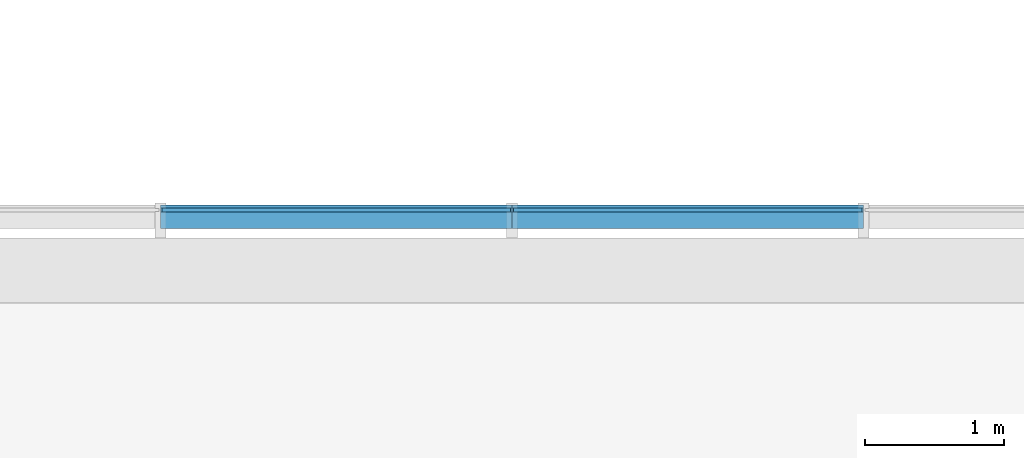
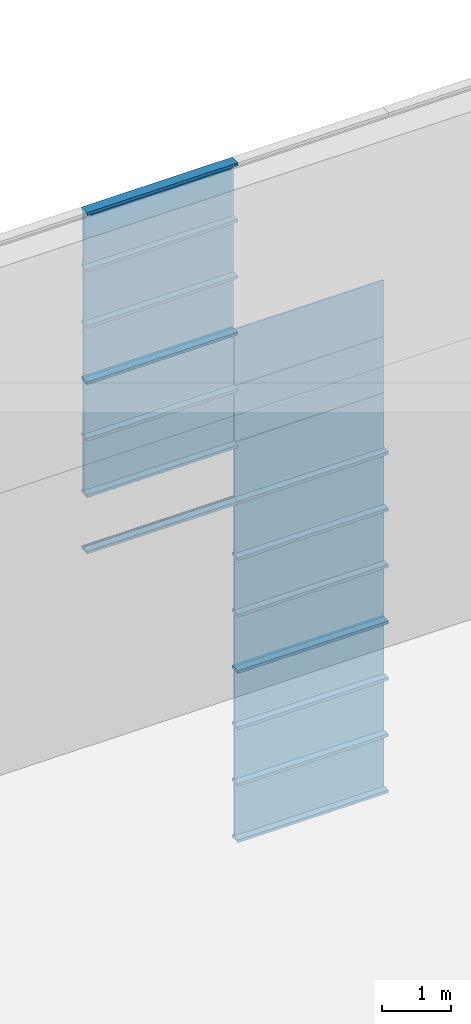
# One storey, part 44 of 105: 30 building element parts, 4 elements without a shape of their own.
"""IFC4 building model written with IfcOpenShell, lengths in millimetres."""

from ifc_helpers import new_model, entity, si_unit, converted_unit, derived_unit, direction, frame, origin_with_axes, place, context, subcontext, project, spatial, triangles, material, element, aggregate, save


model = new_model("IFC4")

# Units and contexts
model_context = context("Model", 3, precision=1e-05, world=origin_with_axes(), true_north=direction((0.0, 1.0)))
body_context = subcontext(model_context, "Body", "Model", "MODEL_VIEW")
ifc_project = project(units=[si_unit("LENGTHUNIT", "METRE", prefix="MILLI"), si_unit("AREAUNIT", "SQUARE_METRE"), si_unit("VOLUMEUNIT", "CUBIC_METRE"), converted_unit("PLANEANGLEUNIT", "DEGREE", entity("IfcLengthMeasure", 0.017453), si_unit("PLANEANGLEUNIT", "RADIAN"), dimensions=[0, 0, 0, 0, 0, 0, 0]), si_unit("SOLIDANGLEUNIT", "STERADIAN"), si_unit("MASSUNIT", "GRAM"), si_unit("TIMEUNIT", "SECOND"), si_unit("THERMODYNAMICTEMPERATUREUNIT", "DEGREE_CELSIUS"), si_unit("LUMINOUSINTENSITYUNIT", "LUMEN"), si_unit("POWERUNIT", "WATT"), derived_unit("THERMALTRANSMITTANCEUNIT", [(si_unit("POWERUNIT", "WATT"), 1), (si_unit("THERMODYNAMICTEMPERATUREUNIT", "KELVIN"), -1), (si_unit("AREAUNIT", "SQUARE_METRE"), -1)])], contexts=[model_context])

# Site, building, storey
site_placement = place(None, origin_with_axes())
site = spatial("IfcSite", under=ifc_project, at=site_placement, Name="Default Site", CompositionType="ELEMENT")
building_placement = place(site_placement, origin_with_axes())
building = spatial("IfcBuilding", under=site, at=building_placement, Name="Default Building", CompositionType="ELEMENT")
storey_placement = place(building_placement, origin_with_axes())
storey = spatial("IfcBuildingStorey", under=building, at=storey_placement, Name="OG - Story", CompositionType="ELEMENT", Elevation=0.0)

# Curtain wall, building element parts
curtain_wall_1_placement = place(storey_placement, origin_with_axes())
curtain_wall_1 = element("IfcCurtainWall", 1, at=curtain_wall_1_placement, inside=storey, Name="Fassade-004", PredefinedType="NOTDEFINED")
ifc_material_1 = material(Name="Normalglas")
building_element_part_1_placement = place(curtain_wall_1_placement, frame((33014.549222, -4389.262838, 0.0), z_axis=(0.0, 0.0, 1.0), x_axis=(1.0, 0.0, 0.0)))
building_element_part_1 = element("IfcBuildingElementPart", 2, at=building_element_part_1_placement, material=ifc_material_1, Name="Normalglas", PredefinedType="NOTDEFINED", context=body_context, shape_type="Tessellation", body=[
    triangles([(13884.737, -14.999, 995.0), (13884.737, 15.0, 995.0), (11378.421, 15.0, 995.0), (11378.421, -14.999, 995.0), (13884.737, -14.999, 5.0), (13884.737, 15.0, 5.0), (11378.421, 15.0, 5.0), (11378.421, -14.999, 5.0)], [[1, 2, 3], [1, 3, 4], [5, 6, 2], [5, 2, 1], [2, 6, 7], [2, 7, 3], [4, 3, 7], [4, 7, 8], [1, 4, 8], [1, 8, 5], [8, 7, 6], [8, 6, 5]], closed=False),
])
building_element_part_2_placement = place(curtain_wall_1_placement, frame((33014.549222, -4389.262838, 0.0), z_axis=(0.0, 0.0, 1.0), x_axis=(1.0, 0.0, 0.0)))
building_element_part_2 = element("IfcBuildingElementPart", 3, at=building_element_part_2_placement, material=ifc_material_1, Name="Normalglas", PredefinedType="NOTDEFINED", context=body_context, shape_type="Tessellation", body=[
    triangles([(13884.737, -14.999, 1995.0), (13884.737, 15.0, 1995.0), (11378.421, 15.0, 1995.0), (11378.421, -14.999, 1995.0), (13884.737, -14.999, 1005.0), (13884.737, 15.0, 1005.0), (11378.421, 15.0, 1005.0), (11378.421, -14.999, 1005.0)], [[1, 2, 3], [1, 3, 4], [5, 6, 2], [5, 2, 1], [2, 6, 7], [2, 7, 3], [4, 3, 7], [4, 7, 8], [1, 4, 8], [1, 8, 5], [8, 7, 6], [8, 6, 5]], closed=False),
])
building_element_part_3_placement = place(curtain_wall_1_placement, frame((33014.549222, -4389.262838, 0.0), z_axis=(0.0, 0.0, 1.0), x_axis=(1.0, 0.0, 0.0)))
building_element_part_3 = element("IfcBuildingElementPart", 4, at=building_element_part_3_placement, material=ifc_material_1, Name="Normalglas", PredefinedType="NOTDEFINED", context=body_context, shape_type="Tessellation", body=[
    triangles([(13884.737, -14.999, 2995.0), (13884.737, 15.0, 2995.0), (11378.421, 15.0, 2995.0), (11378.421, -14.999, 2995.0), (13884.737, -14.999, 2005.0), (13884.737, 15.0, 2005.0), (11378.421, 15.0, 2005.0), (11378.421, -14.999, 2005.0)], [[1, 2, 3], [1, 3, 4], [5, 6, 2], [5, 2, 1], [2, 6, 7], [2, 7, 3], [4, 3, 7], [4, 7, 8], [1, 4, 8], [1, 8, 5], [8, 7, 6], [8, 6, 5]], closed=False),
])
ifc_material_2 = material(Name="Blech")
building_element_part_4_placement = place(curtain_wall_1_placement, frame((33014.549222, -4389.262838, 0.0), z_axis=(0.0, 0.0, 1.0), x_axis=(1.0, 0.0, 0.0)))
building_element_part_4 = element("IfcBuildingElementPart", 5, at=building_element_part_4_placement, material=ifc_material_2, Name="Blech", PredefinedType="NOTDEFINED", context=body_context, shape_type="Tessellation", body=[
    triangles([(13894.737, 35.0, -24.999), (13894.737, 35.0, 25.0), (13894.737, 15.0, 25.0), (13894.737, 15.0, 5.0), (13894.737, -14.999, 5.0), (13894.737, -132.999, 25.0), (13894.737, -132.999, -24.999), (13894.737, -14.999, 25.0), (11368.421, -14.999, 5.0), (11368.421, -14.999, 25.0), (11368.421, -132.999, 25.0), (11368.421, -132.999, -24.999), (11368.421, 35.0, -24.999), (11368.421, 35.0, 25.0), (11368.421, 15.0, 25.0), (11368.421, 15.0, 5.0)], [[1, 2, 3], [1, 3, 4], [1, 4, 5], [1, 5, 6], [1, 6, 7], [8, 6, 5], [5, 9, 10], [5, 10, 8], [10, 11, 6], [10, 6, 8], [11, 12, 7], [11, 7, 6], [12, 13, 1], [12, 1, 7], [13, 14, 2], [13, 2, 1], [3, 2, 14], [3, 14, 15], [15, 16, 4], [15, 4, 3], [4, 16, 9], [4, 9, 5], [15, 16, 13], [13, 16, 9], [13, 9, 11], [11, 9, 10], [13, 11, 12], [15, 13, 14]], closed=False),
])
building_element_part_5_placement = place(curtain_wall_1_placement, frame((33014.549222, -4389.262838, 0.0), z_axis=(0.0, 0.0, 1.0), x_axis=(1.0, 0.0, 0.0)))
building_element_part_5 = element("IfcBuildingElementPart", 6, at=building_element_part_5_placement, material=ifc_material_2, Name="Blech", PredefinedType="NOTDEFINED", context=body_context, shape_type="Tessellation", body=[
    triangles([(13894.737, 35.0, 975.0), (13894.737, 15.0, 975.0), (13894.737, 35.0, 1025.0), (13894.737, 15.0, 995.0), (13894.737, 15.0, 1005.0), (13894.737, -14.999, 995.0), (13894.737, -14.999, 1005.0), (13894.737, -14.999, 1025.0), (13894.737, -14.999, 975.0), (13894.737, -132.999, 975.0), (13894.737, -132.999, 1025.0), (13894.737, 15.0, 1025.0), (11368.421, -14.999, 995.0), (11368.421, 15.0, 995.0), (11368.421, 15.0, 975.0), (11368.421, 35.0, 975.0), (11368.421, 35.0, 1025.0), (11368.421, 15.0, 1025.0), (11368.421, 15.0, 1005.0), (11368.421, -14.999, 1005.0), (11368.421, -14.999, 1025.0), (11368.421, -132.999, 1025.0), (11368.421, -132.999, 975.0), (11368.421, -14.999, 975.0)], [[1, 2, 3], [3, 2, 4], [3, 4, 5], [5, 4, 6], [5, 6, 7], [8, 9, 10], [8, 10, 11], [3, 5, 12], [6, 13, 14], [6, 14, 4], [4, 14, 15], [4, 15, 2], [15, 16, 1], [15, 1, 2], [1, 16, 17], [1, 17, 3], [18, 12, 3], [18, 3, 17], [12, 18, 19], [12, 19, 5], [7, 5, 19], [7, 19, 20], [8, 7, 20], [8, 20, 21], [8, 21, 22], [8, 22, 11], [11, 22, 23], [11, 23, 10], [9, 10, 23], [9, 23, 24], [9, 24, 13], [9, 13, 6], [17, 18, 16], [16, 18, 19], [16, 19, 14], [14, 19, 20], [14, 20, 13], [24, 21, 22], [24, 22, 23], [16, 14, 15]], closed=False),
])
building_element_part_6_placement = place(curtain_wall_1_placement, frame((33014.549222, -4389.262838, 0.0), z_axis=(0.0, 0.0, 1.0), x_axis=(1.0, 0.0, 0.0)))
building_element_part_6 = element("IfcBuildingElementPart", 7, at=building_element_part_6_placement, material=ifc_material_2, Name="Blech", PredefinedType="NOTDEFINED", context=body_context, shape_type="Tessellation", body=[
    triangles([(13894.737, 35.0, 1975.0), (13894.737, 15.0, 1975.0), (13894.737, 35.0, 2025.0), (13894.737, 15.0, 1995.0), (13894.737, 15.0, 2005.0), (13894.737, -14.999, 1995.0), (13894.737, -14.999, 2005.0), (13894.737, -14.999, 2025.0), (13894.737, -14.999, 1975.0), (13894.737, -132.999, 1975.0), (13894.737, -132.999, 2025.0), (13894.737, 15.0, 2025.0), (11368.421, -14.999, 1995.0), (11368.421, 15.0, 1995.0), (11368.421, 15.0, 1975.0), (11368.421, 35.0, 1975.0), (11368.421, 35.0, 2025.0), (11368.421, 15.0, 2025.0), (11368.421, 15.0, 2005.0), (11368.421, -14.999, 2005.0), (11368.421, -14.999, 2025.0), (11368.421, -132.999, 2025.0), (11368.421, -132.999, 1975.0), (11368.421, -14.999, 1975.0)], [[1, 2, 3], [3, 2, 4], [3, 4, 5], [5, 4, 6], [5, 6, 7], [8, 9, 10], [8, 10, 11], [3, 5, 12], [6, 13, 14], [6, 14, 4], [4, 14, 15], [4, 15, 2], [15, 16, 1], [15, 1, 2], [1, 16, 17], [1, 17, 3], [18, 12, 3], [18, 3, 17], [12, 18, 19], [12, 19, 5], [7, 5, 19], [7, 19, 20], [8, 7, 20], [8, 20, 21], [8, 21, 22], [8, 22, 11], [11, 22, 23], [11, 23, 10], [9, 10, 23], [9, 23, 24], [9, 24, 13], [9, 13, 6], [17, 18, 16], [16, 18, 19], [16, 19, 14], [14, 19, 20], [14, 20, 13], [24, 21, 22], [24, 22, 23], [16, 14, 15]], closed=False),
])
building_element_part_7_placement = place(curtain_wall_1_placement, frame((33014.549222, -4389.262838, 0.0), z_axis=(0.0, 0.0, 1.0), x_axis=(1.0, 0.0, 0.0)))
building_element_part_7 = element("IfcBuildingElementPart", 8, at=building_element_part_7_placement, material=ifc_material_2, Name="Blech", PredefinedType="NOTDEFINED", context=body_context, shape_type="Tessellation", body=[
    triangles([(13894.737, 15.0, 2975.0), (13894.737, 15.0, 2995.0), (13894.737, 35.0, 3025.0), (13894.737, -14.999, 2995.0), (13894.737, -132.999, 2975.0), (13894.737, -14.999, 2975.0), (13894.737, -132.999, 3025.0), (13894.737, 35.0, 2975.0), (11368.421, -14.999, 2995.0), (11368.421, 15.0, 2995.0), (11368.421, 15.0, 2975.0), (11368.421, 35.0, 2975.0), (11368.421, 35.0, 3025.0), (11368.421, -132.999, 3025.0), (11368.421, -132.999, 2975.0), (11368.421, -14.999, 2975.0)], [[1, 2, 3], [3, 2, 4], [3, 4, 5], [5, 4, 6], [3, 5, 7], [1, 3, 8], [2, 4, 9], [2, 9, 10], [11, 1, 2], [11, 2, 10], [1, 11, 12], [1, 12, 8], [13, 3, 8], [13, 8, 12], [14, 7, 3], [14, 3, 13], [15, 5, 7], [15, 7, 14], [16, 6, 5], [16, 5, 15], [4, 6, 16], [4, 16, 9], [13, 12, 11], [13, 11, 10], [13, 10, 9], [13, 9, 15], [13, 15, 14], [16, 15, 9]], closed=False),
])
aggregate(curtain_wall_1, [building_element_part_1, building_element_part_2, building_element_part_3, building_element_part_4, building_element_part_5, building_element_part_6, building_element_part_7])

curtain_wall_2_placement = place(storey_placement, origin_with_axes())
curtain_wall_2 = element("IfcCurtainWall", 9, at=curtain_wall_2_placement, inside=storey, Name="Fassade-004", PredefinedType="NOTDEFINED")
building_element_part_8_placement = place(curtain_wall_2_placement, frame((33014.549222, -4389.262838, 3000.0), z_axis=(0.0, 0.0, 1.0), x_axis=(1.0, 0.0, 0.0)))
building_element_part_8 = element("IfcBuildingElementPart", 10, at=building_element_part_8_placement, material=ifc_material_1, Name="Normalglas", PredefinedType="NOTDEFINED", context=body_context, shape_type="Tessellation", body=[
    triangles([(13884.737, -14.999, 995.0), (13884.737, 15.0, 995.0), (11378.421, 15.0, 995.0), (11378.421, -14.999, 995.0), (13884.737, -14.999, 5.0), (13884.737, 15.0, 5.0), (11378.421, 15.0, 5.0), (11378.421, -14.999, 5.0)], [[1, 2, 3], [1, 3, 4], [5, 6, 2], [5, 2, 1], [2, 6, 7], [2, 7, 3], [4, 3, 7], [4, 7, 8], [1, 4, 8], [1, 8, 5], [8, 7, 6], [8, 6, 5]], closed=False),
])
building_element_part_9_placement = place(curtain_wall_2_placement, frame((33014.549222, -4389.262838, 3000.0), z_axis=(0.0, 0.0, 1.0), x_axis=(1.0, 0.0, 0.0)))
building_element_part_9 = element("IfcBuildingElementPart", 11, at=building_element_part_9_placement, material=ifc_material_1, Name="Normalglas", PredefinedType="NOTDEFINED", context=body_context, shape_type="Tessellation", body=[
    triangles([(13884.737, -14.999, 1995.0), (13884.737, 15.0, 1995.0), (11378.421, 15.0, 1995.0), (11378.421, -14.999, 1995.0), (13884.737, -14.999, 1005.0), (13884.737, 15.0, 1005.0), (11378.421, 15.0, 1005.0), (11378.421, -14.999, 1005.0)], [[1, 2, 3], [1, 3, 4], [5, 6, 2], [5, 2, 1], [2, 6, 7], [2, 7, 3], [4, 3, 7], [4, 7, 8], [1, 4, 8], [1, 8, 5], [8, 7, 6], [8, 6, 5]], closed=False),
])
building_element_part_10_placement = place(curtain_wall_2_placement, frame((33014.549222, -4389.262838, 3000.0), z_axis=(0.0, 0.0, 1.0), x_axis=(1.0, 0.0, 0.0)))
building_element_part_10 = element("IfcBuildingElementPart", 12, at=building_element_part_10_placement, material=ifc_material_1, Name="Normalglas", PredefinedType="NOTDEFINED", context=body_context, shape_type="Tessellation", body=[
    triangles([(13884.737, -14.999, 2995.0), (13884.737, 15.0, 2995.0), (11378.421, 15.0, 2995.0), (11378.421, -14.999, 2995.0), (13884.737, -14.999, 2005.0), (13884.737, 15.0, 2005.0), (11378.421, 15.0, 2005.0), (11378.421, -14.999, 2005.0)], [[1, 2, 3], [1, 3, 4], [5, 6, 2], [5, 2, 1], [2, 6, 7], [2, 7, 3], [4, 3, 7], [4, 7, 8], [1, 4, 8], [1, 8, 5], [8, 7, 6], [8, 6, 5]], closed=False),
])
building_element_part_11_placement = place(curtain_wall_2_placement, frame((33014.549222, -4389.262838, 3000.0), z_axis=(0.0, 0.0, 1.0), x_axis=(1.0, 0.0, 0.0)))
building_element_part_11 = element("IfcBuildingElementPart", 13, at=building_element_part_11_placement, material=ifc_material_2, Name="Blech", PredefinedType="NOTDEFINED", context=body_context, shape_type="Tessellation", body=[
    triangles([(13894.737, 35.0, -24.999), (13894.737, 35.0, 25.0), (13894.737, 15.0, 25.0), (13894.737, 15.0, 5.0), (13894.737, -14.999, 5.0), (13894.737, -132.999, 25.0), (13894.737, -132.999, -24.999), (13894.737, -14.999, 25.0), (11368.421, -14.999, 5.0), (11368.421, -14.999, 25.0), (11368.421, -132.999, 25.0), (11368.421, -132.999, -24.999), (11368.421, 35.0, -24.999), (11368.421, 35.0, 25.0), (11368.421, 15.0, 25.0), (11368.421, 15.0, 5.0)], [[1, 2, 3], [1, 3, 4], [1, 4, 5], [1, 5, 6], [1, 6, 7], [8, 6, 5], [5, 9, 10], [5, 10, 8], [10, 11, 6], [10, 6, 8], [11, 12, 7], [11, 7, 6], [12, 13, 1], [12, 1, 7], [13, 14, 2], [13, 2, 1], [3, 2, 14], [3, 14, 15], [15, 16, 4], [15, 4, 3], [4, 16, 9], [4, 9, 5], [15, 16, 13], [13, 16, 9], [13, 9, 11], [11, 9, 10], [13, 11, 12], [15, 13, 14]], closed=False),
])
building_element_part_12_placement = place(curtain_wall_2_placement, frame((33014.549222, -4389.262838, 3000.0), z_axis=(0.0, 0.0, 1.0), x_axis=(1.0, 0.0, 0.0)))
building_element_part_12 = element("IfcBuildingElementPart", 14, at=building_element_part_12_placement, material=ifc_material_2, Name="Blech", PredefinedType="NOTDEFINED", context=body_context, shape_type="Tessellation", body=[
    triangles([(13894.737, 35.0, 975.0), (13894.737, 15.0, 975.0), (13894.737, 35.0, 1025.0), (13894.737, 15.0, 995.0), (13894.737, 15.0, 1005.0), (13894.737, -14.999, 995.0), (13894.737, -14.999, 1005.0), (13894.737, -14.999, 1025.0), (13894.737, -14.999, 975.0), (13894.737, -132.999, 975.0), (13894.737, -132.999, 1025.0), (13894.737, 15.0, 1025.0), (11368.421, -14.999, 995.0), (11368.421, 15.0, 995.0), (11368.421, 15.0, 975.0), (11368.421, 35.0, 975.0), (11368.421, 35.0, 1025.0), (11368.421, 15.0, 1025.0), (11368.421, 15.0, 1005.0), (11368.421, -14.999, 1005.0), (11368.421, -14.999, 1025.0), (11368.421, -132.999, 1025.0), (11368.421, -132.999, 975.0), (11368.421, -14.999, 975.0)], [[1, 2, 3], [3, 2, 4], [3, 4, 5], [5, 4, 6], [5, 6, 7], [8, 9, 10], [8, 10, 11], [3, 5, 12], [6, 13, 14], [6, 14, 4], [4, 14, 15], [4, 15, 2], [15, 16, 1], [15, 1, 2], [1, 16, 17], [1, 17, 3], [18, 12, 3], [18, 3, 17], [12, 18, 19], [12, 19, 5], [7, 5, 19], [7, 19, 20], [8, 7, 20], [8, 20, 21], [8, 21, 22], [8, 22, 11], [11, 22, 23], [11, 23, 10], [9, 10, 23], [9, 23, 24], [9, 24, 13], [9, 13, 6], [17, 18, 16], [16, 18, 19], [16, 19, 14], [14, 19, 20], [14, 20, 13], [24, 21, 22], [24, 22, 23], [16, 14, 15]], closed=False),
])
building_element_part_13_placement = place(curtain_wall_2_placement, frame((33014.549222, -4389.262838, 3000.0), z_axis=(0.0, 0.0, 1.0), x_axis=(1.0, 0.0, 0.0)))
building_element_part_13 = element("IfcBuildingElementPart", 15, at=building_element_part_13_placement, material=ifc_material_2, Name="Blech", PredefinedType="NOTDEFINED", context=body_context, shape_type="Tessellation", body=[
    triangles([(13894.737, 35.0, 1975.0), (13894.737, 15.0, 1975.0), (13894.737, 35.0, 2025.0), (13894.737, 15.0, 1995.0), (13894.737, 15.0, 2005.0), (13894.737, -14.999, 1995.0), (13894.737, -14.999, 2005.0), (13894.737, -14.999, 2025.0), (13894.737, -14.999, 1975.0), (13894.737, -132.999, 1975.0), (13894.737, -132.999, 2025.0), (13894.737, 15.0, 2025.0), (11368.421, -14.999, 1995.0), (11368.421, 15.0, 1995.0), (11368.421, 15.0, 1975.0), (11368.421, 35.0, 1975.0), (11368.421, 35.0, 2025.0), (11368.421, 15.0, 2025.0), (11368.421, 15.0, 2005.0), (11368.421, -14.999, 2005.0), (11368.421, -14.999, 2025.0), (11368.421, -132.999, 2025.0), (11368.421, -132.999, 1975.0), (11368.421, -14.999, 1975.0)], [[1, 2, 3], [3, 2, 4], [3, 4, 5], [5, 4, 6], [5, 6, 7], [8, 9, 10], [8, 10, 11], [3, 5, 12], [6, 13, 14], [6, 14, 4], [4, 14, 15], [4, 15, 2], [15, 16, 1], [15, 1, 2], [1, 16, 17], [1, 17, 3], [18, 12, 3], [18, 3, 17], [12, 18, 19], [12, 19, 5], [7, 5, 19], [7, 19, 20], [8, 7, 20], [8, 20, 21], [8, 21, 22], [8, 22, 11], [11, 22, 23], [11, 23, 10], [9, 10, 23], [9, 23, 24], [9, 24, 13], [9, 13, 6], [17, 18, 16], [16, 18, 19], [16, 19, 14], [14, 19, 20], [14, 20, 13], [24, 21, 22], [24, 22, 23], [16, 14, 15]], closed=False),
])
building_element_part_14_placement = place(curtain_wall_2_placement, frame((33014.549222, -4389.262838, 3000.0), z_axis=(0.0, 0.0, 1.0), x_axis=(1.0, 0.0, 0.0)))
building_element_part_14 = element("IfcBuildingElementPart", 16, at=building_element_part_14_placement, material=ifc_material_2, Name="Blech", PredefinedType="NOTDEFINED", context=body_context, shape_type="Tessellation", body=[
    triangles([(13894.737, 15.0, 2975.0), (13894.737, 15.0, 2995.0), (13894.737, 35.0, 3025.0), (13894.737, -14.999, 2995.0), (13894.737, -132.999, 2975.0), (13894.737, -14.999, 2975.0), (13894.737, -132.999, 3025.0), (13894.737, 35.0, 2975.0), (11368.421, -14.999, 2995.0), (11368.421, 15.0, 2995.0), (11368.421, 15.0, 2975.0), (11368.421, 35.0, 2975.0), (11368.421, 35.0, 3025.0), (11368.421, -132.999, 3025.0), (11368.421, -132.999, 2975.0), (11368.421, -14.999, 2975.0)], [[1, 2, 3], [3, 2, 4], [3, 4, 5], [5, 4, 6], [3, 5, 7], [1, 3, 8], [2, 4, 9], [2, 9, 10], [11, 1, 2], [11, 2, 10], [1, 11, 12], [1, 12, 8], [13, 3, 8], [13, 8, 12], [14, 7, 3], [14, 3, 13], [15, 5, 7], [15, 7, 14], [16, 6, 5], [16, 5, 15], [4, 6, 16], [4, 16, 9], [13, 12, 11], [13, 11, 10], [13, 10, 9], [13, 9, 15], [13, 15, 14], [16, 15, 9]], closed=False),
])
aggregate(curtain_wall_2, [building_element_part_8, building_element_part_9, building_element_part_10, building_element_part_11, building_element_part_12, building_element_part_13, building_element_part_14])

curtain_wall_3_placement = place(storey_placement, origin_with_axes())
curtain_wall_3 = element("IfcCurtainWall", 17, at=curtain_wall_3_placement, inside=storey, Name="Fassade-004", PredefinedType="NOTDEFINED")
building_element_part_15_placement = place(curtain_wall_3_placement, frame((33014.549222, -4389.262838, 6000.0), z_axis=(0.0, 0.0, 1.0), x_axis=(1.0, 0.0, 0.0)))
building_element_part_15 = element("IfcBuildingElementPart", 18, at=building_element_part_15_placement, material=ifc_material_1, Name="Normalglas", PredefinedType="NOTDEFINED", context=body_context, shape_type="Tessellation", body=[
    triangles([(13884.737, -14.999, 995.0), (13884.737, 15.0, 995.0), (11378.421, 15.0, 995.0), (11378.421, -14.999, 995.0), (13884.737, -14.999, 5.0), (13884.737, 15.0, 5.0), (11378.421, 15.0, 5.0), (11378.421, -14.999, 5.0)], [[1, 2, 3], [1, 3, 4], [5, 6, 2], [5, 2, 1], [2, 6, 7], [2, 7, 3], [4, 3, 7], [4, 7, 8], [1, 4, 8], [1, 8, 5], [8, 7, 6], [8, 6, 5]], closed=False),
])
building_element_part_16_placement = place(curtain_wall_3_placement, frame((33014.549222, -4389.262838, 6000.0), z_axis=(0.0, 0.0, 1.0), x_axis=(1.0, 0.0, 0.0)))
building_element_part_16 = element("IfcBuildingElementPart", 19, at=building_element_part_16_placement, material=ifc_material_1, Name="Normalglas", PredefinedType="NOTDEFINED", context=body_context, shape_type="Tessellation", body=[
    triangles([(11358.421, -14.999, 1995.0), (11358.421, 15.0, 1995.0), (8852.105, 15.0, 1995.0), (8852.105, -14.999, 1995.0), (11358.421, -14.999, 1005.0), (11358.421, 15.0, 1005.0), (8852.105, 15.0, 1005.0), (8852.105, -14.999, 1005.0)], [[1, 2, 3], [1, 3, 4], [5, 6, 2], [5, 2, 1], [2, 6, 7], [2, 7, 3], [4, 3, 7], [4, 7, 8], [1, 4, 8], [1, 8, 5], [8, 7, 6], [8, 6, 5]], closed=False),
])
building_element_part_17_placement = place(curtain_wall_3_placement, frame((33014.549222, -4389.262838, 6000.0), z_axis=(0.0, 0.0, 1.0), x_axis=(1.0, 0.0, 0.0)))
building_element_part_17 = element("IfcBuildingElementPart", 20, at=building_element_part_17_placement, material=ifc_material_1, Name="Normalglas", PredefinedType="NOTDEFINED", context=body_context, shape_type="Tessellation", body=[
    triangles([(13884.737, -14.999, 1995.0), (13884.737, 15.0, 1995.0), (11378.421, 15.0, 1995.0), (11378.421, -14.999, 1995.0), (13884.737, -14.999, 1005.0), (13884.737, 15.0, 1005.0), (11378.421, 15.0, 1005.0), (11378.421, -14.999, 1005.0)], [[1, 2, 3], [1, 3, 4], [5, 6, 2], [5, 2, 1], [2, 6, 7], [2, 7, 3], [4, 3, 7], [4, 7, 8], [1, 4, 8], [1, 8, 5], [8, 7, 6], [8, 6, 5]], closed=False),
])
building_element_part_18_placement = place(curtain_wall_3_placement, frame((33014.549222, -4389.262838, 6000.0), z_axis=(0.0, 0.0, 1.0), x_axis=(1.0, 0.0, 0.0)))
building_element_part_18 = element("IfcBuildingElementPart", 21, at=building_element_part_18_placement, material=ifc_material_1, Name="Normalglas", PredefinedType="NOTDEFINED", context=body_context, shape_type="Tessellation", body=[
    triangles([(11358.421, -14.999, 2995.0), (11358.421, 15.0, 2995.0), (8852.105, 15.0, 2995.0), (8852.105, -14.999, 2995.0), (11358.421, -14.999, 2005.0), (11358.421, 15.0, 2005.0), (8852.105, 15.0, 2005.0), (8852.105, -14.999, 2005.0)], [[1, 2, 3], [1, 3, 4], [5, 6, 2], [5, 2, 1], [2, 6, 7], [2, 7, 3], [4, 3, 7], [4, 7, 8], [1, 4, 8], [1, 8, 5], [8, 7, 6], [8, 6, 5]], closed=False),
])
building_element_part_19_placement = place(curtain_wall_3_placement, frame((33014.549222, -4389.262838, 6000.0), z_axis=(0.0, 0.0, 1.0), x_axis=(1.0, 0.0, 0.0)))
building_element_part_19 = element("IfcBuildingElementPart", 22, at=building_element_part_19_placement, material=ifc_material_1, Name="Normalglas", PredefinedType="NOTDEFINED", context=body_context, shape_type="Tessellation", body=[
    triangles([(13884.737, -14.999, 2995.0), (13884.737, 15.0, 2995.0), (11378.421, 15.0, 2995.0), (11378.421, -14.999, 2995.0), (13884.737, -14.999, 2005.0), (13884.737, 15.0, 2005.0), (11378.421, 15.0, 2005.0), (11378.421, -14.999, 2005.0)], [[1, 2, 3], [1, 3, 4], [5, 6, 2], [5, 2, 1], [2, 6, 7], [2, 7, 3], [4, 3, 7], [4, 7, 8], [1, 4, 8], [1, 8, 5], [8, 7, 6], [8, 6, 5]], closed=False),
])
building_element_part_20_placement = place(curtain_wall_3_placement, frame((33014.549222, -4389.262838, 6000.0), z_axis=(0.0, 0.0, 1.0), x_axis=(1.0, 0.0, 0.0)))
building_element_part_20 = element("IfcBuildingElementPart", 23, at=building_element_part_20_placement, material=ifc_material_2, Name="Blech", PredefinedType="NOTDEFINED", context=body_context, shape_type="Tessellation", body=[
    triangles([(11368.421, 35.0, -24.999), (11368.421, 35.0, 25.0), (11368.421, 15.0, 25.0), (11368.421, 15.0, 5.0), (11368.421, -14.999, 5.0), (11368.421, -132.999, 25.0), (11368.421, -132.999, -24.999), (11368.421, -14.999, 25.0), (8842.105, -14.999, 5.0), (8842.105, -14.999, 25.0), (8842.105, -132.999, 25.0), (8842.105, -132.999, -24.999), (8842.105, 35.0, -24.999), (8842.105, 35.0, 25.0), (8842.105, 15.0, 25.0), (8842.105, 15.0, 5.0)], [[1, 2, 3], [1, 3, 4], [1, 4, 5], [1, 5, 6], [1, 6, 7], [8, 6, 5], [5, 9, 10], [5, 10, 8], [10, 11, 6], [10, 6, 8], [11, 12, 7], [11, 7, 6], [12, 13, 1], [12, 1, 7], [13, 14, 2], [13, 2, 1], [3, 2, 14], [3, 14, 15], [15, 16, 4], [15, 4, 3], [4, 16, 9], [4, 9, 5], [15, 16, 13], [13, 16, 9], [13, 9, 11], [11, 9, 10], [13, 11, 12], [15, 13, 14]], closed=False),
])
building_element_part_21_placement = place(curtain_wall_3_placement, frame((33014.549222, -4389.262838, 6000.0), z_axis=(0.0, 0.0, 1.0), x_axis=(1.0, 0.0, 0.0)))
building_element_part_21 = element("IfcBuildingElementPart", 24, at=building_element_part_21_placement, material=ifc_material_2, Name="Blech", PredefinedType="NOTDEFINED", context=body_context, shape_type="Tessellation", body=[
    triangles([(11368.421, 35.0, 975.0), (11368.421, 15.0, 975.0), (11368.421, 35.0, 1025.0), (11368.421, 15.0, 995.0), (11368.421, 15.0, 1005.0), (11368.421, -14.999, 995.0), (11368.421, -14.999, 1005.0), (11368.421, -14.999, 1025.0), (11368.421, -14.999, 975.0), (11368.421, -132.999, 975.0), (11368.421, -132.999, 1025.0), (11368.421, 15.0, 1025.0), (8842.105, -14.999, 995.0), (8842.105, 15.0, 995.0), (8842.105, 15.0, 975.0), (8842.105, 35.0, 975.0), (8842.105, 35.0, 1025.0), (8842.105, 15.0, 1025.0), (8842.105, 15.0, 1005.0), (8842.105, -14.999, 1005.0), (8842.105, -14.999, 1025.0), (8842.105, -132.999, 1025.0), (8842.105, -132.999, 975.0), (8842.105, -14.999, 975.0)], [[1, 2, 3], [3, 2, 4], [3, 4, 5], [5, 4, 6], [5, 6, 7], [8, 9, 10], [8, 10, 11], [3, 5, 12], [6, 13, 14], [6, 14, 4], [4, 14, 15], [4, 15, 2], [15, 16, 1], [15, 1, 2], [1, 16, 17], [1, 17, 3], [18, 12, 3], [18, 3, 17], [12, 18, 19], [12, 19, 5], [7, 5, 19], [7, 19, 20], [8, 7, 20], [8, 20, 21], [8, 21, 22], [8, 22, 11], [11, 22, 23], [11, 23, 10], [9, 10, 23], [9, 23, 24], [9, 24, 13], [9, 13, 6], [17, 18, 16], [16, 18, 19], [16, 19, 14], [14, 19, 20], [14, 20, 13], [24, 21, 22], [24, 22, 23], [16, 14, 15]], closed=False),
])
building_element_part_22_placement = place(curtain_wall_3_placement, frame((33014.549222, -4389.262838, 6000.0), z_axis=(0.0, 0.0, 1.0), x_axis=(1.0, 0.0, 0.0)))
building_element_part_22 = element("IfcBuildingElementPart", 25, at=building_element_part_22_placement, material=ifc_material_2, Name="Blech", PredefinedType="NOTDEFINED", context=body_context, shape_type="Tessellation", body=[
    triangles([(11368.421, 35.0, 1975.0), (11368.421, 15.0, 1975.0), (11368.421, 35.0, 2025.0), (11368.421, 15.0, 1995.0), (11368.421, 15.0, 2005.0), (11368.421, -14.999, 1995.0), (11368.421, -14.999, 2005.0), (11368.421, -14.999, 2025.0), (11368.421, -14.999, 1975.0), (11368.421, -132.999, 1975.0), (11368.421, -132.999, 2025.0), (11368.421, 15.0, 2025.0), (8842.105, -14.999, 1995.0), (8842.105, 15.0, 1995.0), (8842.105, 15.0, 1975.0), (8842.105, 35.0, 1975.0), (8842.105, 35.0, 2025.0), (8842.105, 15.0, 2025.0), (8842.105, 15.0, 2005.0), (8842.105, -14.999, 2005.0), (8842.105, -14.999, 2025.0), (8842.105, -132.999, 2025.0), (8842.105, -132.999, 1975.0), (8842.105, -14.999, 1975.0)], [[1, 2, 3], [3, 2, 4], [3, 4, 5], [5, 4, 6], [5, 6, 7], [8, 9, 10], [8, 10, 11], [3, 5, 12], [6, 13, 14], [6, 14, 4], [4, 14, 15], [4, 15, 2], [15, 16, 1], [15, 1, 2], [1, 16, 17], [1, 17, 3], [18, 12, 3], [18, 3, 17], [12, 18, 19], [12, 19, 5], [7, 5, 19], [7, 19, 20], [8, 7, 20], [8, 20, 21], [8, 21, 22], [8, 22, 11], [11, 22, 23], [11, 23, 10], [9, 10, 23], [9, 23, 24], [9, 24, 13], [9, 13, 6], [17, 18, 16], [16, 18, 19], [16, 19, 14], [14, 19, 20], [14, 20, 13], [24, 21, 22], [24, 22, 23], [16, 14, 15]], closed=False),
])
building_element_part_23_placement = place(curtain_wall_3_placement, frame((33014.549222, -4389.262838, 6000.0), z_axis=(0.0, 0.0, 1.0), x_axis=(1.0, 0.0, 0.0)))
building_element_part_23 = element("IfcBuildingElementPart", 26, at=building_element_part_23_placement, material=ifc_material_2, Name="Blech", PredefinedType="NOTDEFINED", context=body_context, shape_type="Tessellation", body=[
    triangles([(11368.421, 15.0, 2975.0), (11368.421, 15.0, 2995.0), (11368.421, 35.0, 3025.0), (11368.421, -14.999, 2995.0), (11368.421, -132.999, 2975.0), (11368.421, -14.999, 2975.0), (11368.421, -132.999, 3025.0), (11368.421, 35.0, 2975.0), (8842.105, -14.999, 2995.0), (8842.105, 15.0, 2995.0), (8842.105, 15.0, 2975.0), (8842.105, 35.0, 2975.0), (8842.105, 35.0, 3025.0), (8842.105, -132.999, 3025.0), (8842.105, -132.999, 2975.0), (8842.105, -14.999, 2975.0)], [[1, 2, 3], [3, 2, 4], [3, 4, 5], [5, 4, 6], [3, 5, 7], [1, 3, 8], [2, 4, 9], [2, 9, 10], [11, 1, 2], [11, 2, 10], [1, 11, 12], [1, 12, 8], [13, 3, 8], [13, 8, 12], [14, 7, 3], [14, 3, 13], [15, 5, 7], [15, 7, 14], [16, 6, 5], [16, 5, 15], [4, 6, 16], [4, 16, 9], [13, 12, 11], [13, 11, 10], [13, 10, 9], [13, 9, 15], [13, 15, 14], [16, 15, 9]], closed=False),
])
aggregate(curtain_wall_3, [building_element_part_15, building_element_part_16, building_element_part_17, building_element_part_18, building_element_part_19, building_element_part_20, building_element_part_21, building_element_part_22, building_element_part_23])

curtain_wall_4_placement = place(storey_placement, origin_with_axes())
curtain_wall_4 = element("IfcCurtainWall", 27, at=curtain_wall_4_placement, inside=storey, Name="Fassade-004", PredefinedType="NOTDEFINED")
building_element_part_24_placement = place(curtain_wall_4_placement, frame((33014.549222, -4389.262838, 9000.0), z_axis=(0.0, 0.0, 1.0), x_axis=(1.0, 0.0, 0.0)))
building_element_part_24 = element("IfcBuildingElementPart", 28, at=building_element_part_24_placement, material=ifc_material_1, Name="Normalglas", PredefinedType="NOTDEFINED", context=body_context, shape_type="Tessellation", body=[
    triangles([(11358.421, -14.999, 995.0), (11358.421, 15.0, 995.0), (8852.105, 15.0, 995.0), (8852.105, -14.999, 995.0), (11358.421, -14.999, 5.0), (11358.421, 15.0, 5.0), (8852.105, 15.0, 5.0), (8852.105, -14.999, 5.0)], [[1, 2, 3], [1, 3, 4], [5, 6, 2], [5, 2, 1], [2, 6, 7], [2, 7, 3], [4, 3, 7], [4, 7, 8], [1, 4, 8], [1, 8, 5], [8, 7, 6], [8, 6, 5]], closed=False),
])
building_element_part_25_placement = place(curtain_wall_4_placement, frame((33014.549222, -4389.262838, 9000.0), z_axis=(0.0, 0.0, 1.0), x_axis=(1.0, 0.0, 0.0)))
building_element_part_25 = element("IfcBuildingElementPart", 29, at=building_element_part_25_placement, material=ifc_material_1, Name="Normalglas", PredefinedType="NOTDEFINED", context=body_context, shape_type="Tessellation", body=[
    triangles([(11358.421, -14.999, 1995.0), (11358.421, 15.0, 1995.0), (8852.105, 15.0, 1995.0), (8852.105, -14.999, 1995.0), (11358.421, -14.999, 1005.0), (11358.421, 15.0, 1005.0), (8852.105, 15.0, 1005.0), (8852.105, -14.999, 1005.0)], [[1, 2, 3], [1, 3, 4], [5, 6, 2], [5, 2, 1], [2, 6, 7], [2, 7, 3], [4, 3, 7], [4, 7, 8], [1, 4, 8], [1, 8, 5], [8, 7, 6], [8, 6, 5]], closed=False),
])
building_element_part_26_placement = place(curtain_wall_4_placement, frame((33014.549222, -4389.262838, 9000.0), z_axis=(0.0, 0.0, 1.0), x_axis=(1.0, 0.0, 0.0)))
building_element_part_26 = element("IfcBuildingElementPart", 30, at=building_element_part_26_placement, material=ifc_material_1, Name="Normalglas", PredefinedType="NOTDEFINED", context=body_context, shape_type="Tessellation", body=[
    triangles([(11358.421, -14.999, 2995.0), (11358.421, 15.0, 2995.0), (8852.105, 15.0, 2995.0), (8852.105, -14.999, 2995.0), (11358.421, -14.999, 2005.0), (11358.421, 15.0, 2005.0), (8852.105, 15.0, 2005.0), (8852.105, -14.999, 2005.0)], [[1, 2, 3], [1, 3, 4], [5, 6, 2], [5, 2, 1], [2, 6, 7], [2, 7, 3], [4, 3, 7], [4, 7, 8], [1, 4, 8], [1, 8, 5], [8, 7, 6], [8, 6, 5]], closed=False),
])
building_element_part_27_placement = place(curtain_wall_4_placement, frame((33014.549222, -4389.262838, 9000.0), z_axis=(0.0, 0.0, 1.0), x_axis=(1.0, 0.0, 0.0)))
building_element_part_27 = element("IfcBuildingElementPart", 31, at=building_element_part_27_placement, material=ifc_material_2, Name="Blech", PredefinedType="NOTDEFINED", context=body_context, shape_type="Tessellation", body=[
    triangles([(11368.421, 35.0, -24.999), (11368.421, 35.0, 25.0), (11368.421, 15.0, 25.0), (11368.421, 15.0, 5.0), (11368.421, -14.999, 5.0), (11368.421, -132.999, 25.0), (11368.421, -132.999, -24.999), (11368.421, -14.999, 25.0), (8842.105, -14.999, 5.0), (8842.105, -14.999, 25.0), (8842.105, -132.999, 25.0), (8842.105, -132.999, -24.999), (8842.105, 35.0, -24.999), (8842.105, 35.0, 25.0), (8842.105, 15.0, 25.0), (8842.105, 15.0, 5.0)], [[1, 2, 3], [1, 3, 4], [1, 4, 5], [1, 5, 6], [1, 6, 7], [8, 6, 5], [5, 9, 10], [5, 10, 8], [10, 11, 6], [10, 6, 8], [11, 12, 7], [11, 7, 6], [12, 13, 1], [12, 1, 7], [13, 14, 2], [13, 2, 1], [3, 2, 14], [3, 14, 15], [15, 16, 4], [15, 4, 3], [4, 16, 9], [4, 9, 5], [15, 16, 13], [13, 16, 9], [13, 9, 11], [11, 9, 10], [13, 11, 12], [15, 13, 14]], closed=False),
])
building_element_part_28_placement = place(curtain_wall_4_placement, frame((33014.549222, -4389.262838, 9000.0), z_axis=(0.0, 0.0, 1.0), x_axis=(1.0, 0.0, 0.0)))
building_element_part_28 = element("IfcBuildingElementPart", 32, at=building_element_part_28_placement, material=ifc_material_2, Name="Blech", PredefinedType="NOTDEFINED", context=body_context, shape_type="Tessellation", body=[
    triangles([(11368.421, 35.0, 975.0), (11368.421, 15.0, 975.0), (11368.421, 35.0, 1025.0), (11368.421, 15.0, 995.0), (11368.421, 15.0, 1005.0), (11368.421, -14.999, 995.0), (11368.421, -14.999, 1005.0), (11368.421, -14.999, 1025.0), (11368.421, -14.999, 975.0), (11368.421, -132.999, 975.0), (11368.421, -132.999, 1025.0), (11368.421, 15.0, 1025.0), (8842.105, -14.999, 995.0), (8842.105, 15.0, 995.0), (8842.105, 15.0, 975.0), (8842.105, 35.0, 975.0), (8842.105, 35.0, 1025.0), (8842.105, 15.0, 1025.0), (8842.105, 15.0, 1005.0), (8842.105, -14.999, 1005.0), (8842.105, -14.999, 1025.0), (8842.105, -132.999, 1025.0), (8842.105, -132.999, 975.0), (8842.105, -14.999, 975.0)], [[1, 2, 3], [3, 2, 4], [3, 4, 5], [5, 4, 6], [5, 6, 7], [8, 9, 10], [8, 10, 11], [3, 5, 12], [6, 13, 14], [6, 14, 4], [4, 14, 15], [4, 15, 2], [15, 16, 1], [15, 1, 2], [1, 16, 17], [1, 17, 3], [18, 12, 3], [18, 3, 17], [12, 18, 19], [12, 19, 5], [7, 5, 19], [7, 19, 20], [8, 7, 20], [8, 20, 21], [8, 21, 22], [8, 22, 11], [11, 22, 23], [11, 23, 10], [9, 10, 23], [9, 23, 24], [9, 24, 13], [9, 13, 6], [17, 18, 16], [16, 18, 19], [16, 19, 14], [14, 19, 20], [14, 20, 13], [24, 21, 22], [24, 22, 23], [16, 14, 15]], closed=False),
])
building_element_part_29_placement = place(curtain_wall_4_placement, frame((33014.549222, -4389.262838, 9000.0), z_axis=(0.0, 0.0, 1.0), x_axis=(1.0, 0.0, 0.0)))
building_element_part_29 = element("IfcBuildingElementPart", 33, at=building_element_part_29_placement, material=ifc_material_2, Name="Blech", PredefinedType="NOTDEFINED", context=body_context, shape_type="Tessellation", body=[
    triangles([(11368.421, 35.0, 1975.0), (11368.421, 15.0, 1975.0), (11368.421, 35.0, 2025.0), (11368.421, 15.0, 1995.0), (11368.421, 15.0, 2005.0), (11368.421, -14.999, 1995.0), (11368.421, -14.999, 2005.0), (11368.421, -14.999, 2025.0), (11368.421, -14.999, 1975.0), (11368.421, -132.999, 1975.0), (11368.421, -132.999, 2025.0), (11368.421, 15.0, 2025.0), (8842.105, -14.999, 1995.0), (8842.105, 15.0, 1995.0), (8842.105, 15.0, 1975.0), (8842.105, 35.0, 1975.0), (8842.105, 35.0, 2025.0), (8842.105, 15.0, 2025.0), (8842.105, 15.0, 2005.0), (8842.105, -14.999, 2005.0), (8842.105, -14.999, 2025.0), (8842.105, -132.999, 2025.0), (8842.105, -132.999, 1975.0), (8842.105, -14.999, 1975.0)], [[1, 2, 3], [3, 2, 4], [3, 4, 5], [5, 4, 6], [5, 6, 7], [8, 9, 10], [8, 10, 11], [3, 5, 12], [6, 13, 14], [6, 14, 4], [4, 14, 15], [4, 15, 2], [15, 16, 1], [15, 1, 2], [1, 16, 17], [1, 17, 3], [18, 12, 3], [18, 3, 17], [12, 18, 19], [12, 19, 5], [7, 5, 19], [7, 19, 20], [8, 7, 20], [8, 20, 21], [8, 21, 22], [8, 22, 11], [11, 22, 23], [11, 23, 10], [9, 10, 23], [9, 23, 24], [9, 24, 13], [9, 13, 6], [17, 18, 16], [16, 18, 19], [16, 19, 14], [14, 19, 20], [14, 20, 13], [24, 21, 22], [24, 22, 23], [16, 14, 15]], closed=False),
])
building_element_part_30_placement = place(curtain_wall_4_placement, frame((33014.549222, -4389.262838, 9000.0), z_axis=(0.0, 0.0, 1.0), x_axis=(1.0, 0.0, 0.0)))
building_element_part_30 = element("IfcBuildingElementPart", 34, at=building_element_part_30_placement, material=ifc_material_2, Name="Blech", PredefinedType="NOTDEFINED", context=body_context, shape_type="Tessellation", body=[
    triangles([(11368.421, 15.0, 2975.0), (11368.421, 15.0, 2995.0), (11368.421, 35.0, 3025.0), (11368.421, -14.999, 2995.0), (11368.421, -132.999, 2975.0), (11368.421, -14.999, 2975.0), (11368.421, -132.999, 3025.0), (11368.421, 35.0, 2975.0), (8842.105, -14.999, 2995.0), (8842.105, 15.0, 2995.0), (8842.105, 15.0, 2975.0), (8842.105, 35.0, 2975.0), (8842.105, 35.0, 3025.0), (8842.105, -132.999, 3025.0), (8842.105, -132.999, 2975.0), (8842.105, -14.999, 2975.0)], [[1, 2, 3], [3, 2, 4], [3, 4, 5], [5, 4, 6], [3, 5, 7], [1, 3, 8], [2, 4, 9], [2, 9, 10], [11, 1, 2], [11, 2, 10], [1, 11, 12], [1, 12, 8], [13, 3, 8], [13, 8, 12], [14, 7, 3], [14, 3, 13], [15, 5, 7], [15, 7, 14], [16, 6, 5], [16, 5, 15], [4, 6, 16], [4, 16, 9], [13, 12, 11], [13, 11, 10], [13, 10, 9], [13, 9, 15], [13, 15, 14], [16, 15, 9]], closed=False),
])
aggregate(curtain_wall_4, [building_element_part_24, building_element_part_25, building_element_part_26, building_element_part_27, building_element_part_28, building_element_part_29, building_element_part_30])

save(model, "model.ifc")
